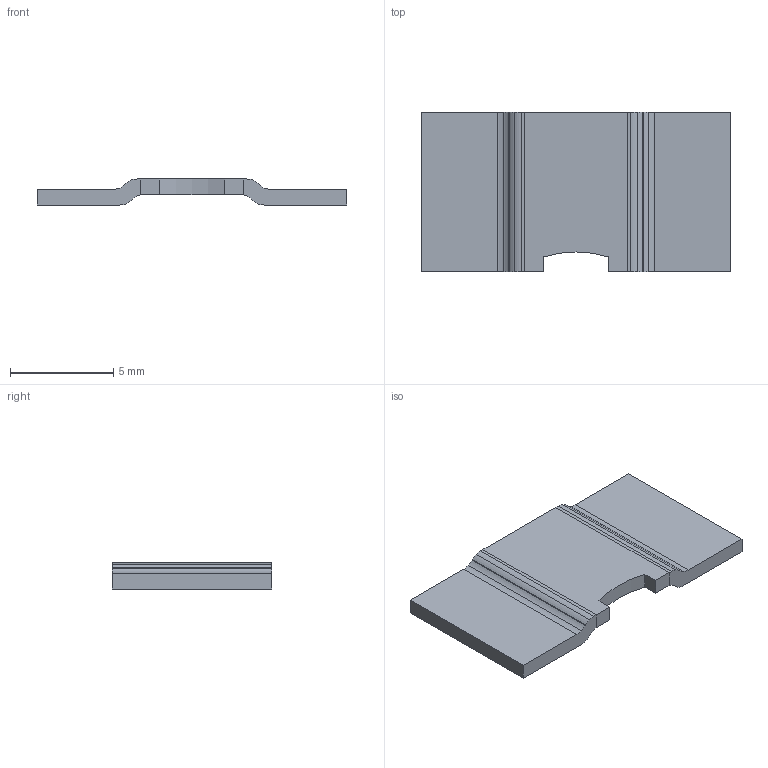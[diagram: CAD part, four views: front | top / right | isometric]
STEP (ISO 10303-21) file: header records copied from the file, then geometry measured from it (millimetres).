
FILE_DESCRIPTION (( 'STEP AP214' ), '1' );
FILE_NAME ('WSLP5931 (0.0003).step', '2018-11-05T17:00:01', ( '' ), ( '' ), 'SwSTEP 2.0', 'SolidWorks 2018', '' );
FILE_SCHEMA (( 'AUTOMOTIVE_DESIGN' ));
Length unit declared in the file: millimetre
Products named in the file (1): WSLP5931 (0.0003)
Bounding box: 15 x 7.75 x 1.26 mm (x, y, z)
Volume: 88.8 mm3; surface area: 291.3 mm2
Topology: 3 solids, 3 shells, 42 faces, 108 edges, 72 vertices
Faces by surface type: plane 27, cylinder 15
Entity records: 1334 total; most frequent: DIRECTION 224, CARTESIAN_POINT 223, ORIENTED_EDGE 216, EDGE_CURVE 108, LINE 78, VECTOR 78, AXIS2_PLACEMENT_3D 73, VERTEX_POINT 72
